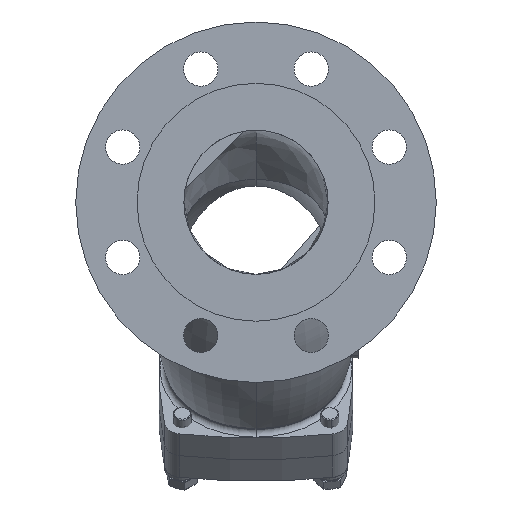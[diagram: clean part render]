
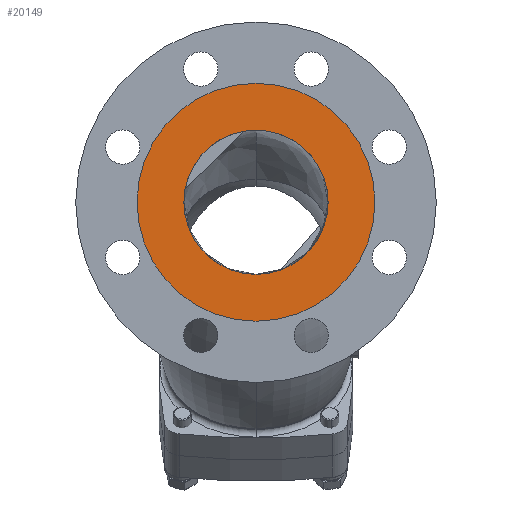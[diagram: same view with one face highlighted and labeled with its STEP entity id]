
A CAD part, left-side view. The second image highlights one B-rep face of the part: STEP entity #20149.
In plain terms, the highlighted planar face has unit normal (-1, 0, 0).
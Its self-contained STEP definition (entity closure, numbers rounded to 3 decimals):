
#19220 = CYLINDRICAL_SURFACE('',#19221,40.);
#19221 = AXIS2_PLACEMENT_3D('',#19222,#19223,#19224);
#19222 = CARTESIAN_POINT('',(377.677,100.406,
    -49.613));
#19223 = DIRECTION('',(-1.,0.,0.));
#19224 = DIRECTION('',(0.,-1.,0.));
#19268 = CYLINDRICAL_SURFACE('',#19269,40.);
#19269 = AXIS2_PLACEMENT_3D('',#19270,#19271,#19272);
#19270 = CARTESIAN_POINT('',(377.677,100.406,
    -49.613));
#19271 = DIRECTION('',(-1.,0.,0.));
#19272 = DIRECTION('',(0.,-1.,0.));
#19387 = VERTEX_POINT('',#19388);
#19388 = CARTESIAN_POINT('',(246.54,60.406,
    -49.613));
#19409 = EDGE_CURVE('',#19410,#19387,#19412,.T.);
#19410 = VERTEX_POINT('',#19411);
#19411 = CARTESIAN_POINT('',(246.54,140.406,
    -49.613));
#19412 = SURFACE_CURVE('',#19413,(#19418,#19425),.PCURVE_S1.);
#19413 = CIRCLE('',#19414,40.);
#19414 = AXIS2_PLACEMENT_3D('',#19415,#19416,#19417);
#19415 = CARTESIAN_POINT('',(246.54,100.406,
    -49.613));
#19416 = DIRECTION('',(-1.,0.,0.));
#19417 = DIRECTION('',(0.,-1.,0.));
#19418 = PCURVE('',#19268,#19419);
#19419 = DEFINITIONAL_REPRESENTATION('',(#19420),#19424);
#19420 = LINE('',#19421,#19422);
#19421 = CARTESIAN_POINT('',(0.,131.137));
#19422 = VECTOR('',#19423,1.);
#19423 = DIRECTION('',(1.,0.));
#19424 = ( GEOMETRIC_REPRESENTATION_CONTEXT(2) 
PARAMETRIC_REPRESENTATION_CONTEXT() REPRESENTATION_CONTEXT('2D SPACE',''
  ) );
#19425 = PCURVE('',#19426,#19431);
#19426 = PLANE('',#19427);
#19427 = AXIS2_PLACEMENT_3D('',#19428,#19429,#19430);
#19428 = CARTESIAN_POINT('',(246.54,100.406,
    -49.613));
#19429 = DIRECTION('',(1.,0.,0.));
#19430 = DIRECTION('',(0.,1.,0.));
#19431 = DEFINITIONAL_REPRESENTATION('',(#19432),#19440);
#19432 = ( BOUNDED_CURVE() B_SPLINE_CURVE(2,(#19433,#19434,#19435,#19436
    ,#19437,#19438,#19439),.UNSPECIFIED.,.T.,.F.) 
B_SPLINE_CURVE_WITH_KNOTS((1,2,2,2,2,1),(-2.094,0.,
    2.094,4.189,6.283,8.378),
.UNSPECIFIED.) CURVE() GEOMETRIC_REPRESENTATION_ITEM() 
RATIONAL_B_SPLINE_CURVE((1.,0.5,1.,0.5,1.,0.5,1.)) REPRESENTATION_ITEM(
  '') );
#19433 = CARTESIAN_POINT('',(-40.,0.));
#19434 = CARTESIAN_POINT('',(-40.,69.282));
#19435 = CARTESIAN_POINT('',(20.,34.641));
#19436 = CARTESIAN_POINT('',(80.,0.));
#19437 = CARTESIAN_POINT('',(20.,-34.641));
#19438 = CARTESIAN_POINT('',(-40.,-69.282));
#19439 = CARTESIAN_POINT('',(-40.,0.));
#19440 = ( GEOMETRIC_REPRESENTATION_CONTEXT(2) 
PARAMETRIC_REPRESENTATION_CONTEXT() REPRESENTATION_CONTEXT('2D SPACE',''
  ) );
#20149 = ADVANCED_FACE('',(#20150,#20218),#19426,.F.);
#20150 = FACE_BOUND('',#20151,.T.);
#20151 = EDGE_LOOP('',(#20152,#20187));
#20152 = ORIENTED_EDGE('',*,*,#20153,.T.);
#20153 = EDGE_CURVE('',#20154,#20156,#20158,.T.);
#20154 = VERTEX_POINT('',#20155);
#20155 = CARTESIAN_POINT('',(246.54,34.406,
    -49.613));
#20156 = VERTEX_POINT('',#20157);
#20157 = CARTESIAN_POINT('',(246.54,166.406,
    -49.613));
#20158 = SURFACE_CURVE('',#20159,(#20164,#20175),.PCURVE_S1.);
#20159 = CIRCLE('',#20160,66.);
#20160 = AXIS2_PLACEMENT_3D('',#20161,#20162,#20163);
#20161 = CARTESIAN_POINT('',(246.54,100.406,
    -49.613));
#20162 = DIRECTION('',(-1.,0.,0.));
#20163 = DIRECTION('',(0.,-1.,0.));
#20164 = PCURVE('',#19426,#20165);
#20165 = DEFINITIONAL_REPRESENTATION('',(#20166),#20174);
#20166 = ( BOUNDED_CURVE() B_SPLINE_CURVE(2,(#20167,#20168,#20169,#20170
    ,#20171,#20172,#20173),.UNSPECIFIED.,.T.,.F.) 
B_SPLINE_CURVE_WITH_KNOTS((1,2,2,2,2,1),(-2.094,0.,
    2.094,4.189,6.283,8.378),
.UNSPECIFIED.) CURVE() GEOMETRIC_REPRESENTATION_ITEM() 
RATIONAL_B_SPLINE_CURVE((1.,0.5,1.,0.5,1.,0.5,1.)) REPRESENTATION_ITEM(
  '') );
#20167 = CARTESIAN_POINT('',(-66.,0.));
#20168 = CARTESIAN_POINT('',(-66.,114.315));
#20169 = CARTESIAN_POINT('',(33.,57.158));
#20170 = CARTESIAN_POINT('',(132.,0.));
#20171 = CARTESIAN_POINT('',(33.,-57.158));
#20172 = CARTESIAN_POINT('',(-66.,-114.315));
#20173 = CARTESIAN_POINT('',(-66.,0.));
#20174 = ( GEOMETRIC_REPRESENTATION_CONTEXT(2) 
PARAMETRIC_REPRESENTATION_CONTEXT() REPRESENTATION_CONTEXT('2D SPACE',''
  ) );
#20175 = PCURVE('',#20176,#20181);
#20176 = CYLINDRICAL_SURFACE('',#20177,66.);
#20177 = AXIS2_PLACEMENT_3D('',#20178,#20179,#20180);
#20178 = CARTESIAN_POINT('',(241.54,100.406,
    -49.613));
#20179 = DIRECTION('',(-1.,0.,0.));
#20180 = DIRECTION('',(0.,-1.,0.));
#20181 = DEFINITIONAL_REPRESENTATION('',(#20182),#20186);
#20182 = LINE('',#20183,#20184);
#20183 = CARTESIAN_POINT('',(0.,-5.));
#20184 = VECTOR('',#20185,1.);
#20185 = DIRECTION('',(1.,0.));
#20186 = ( GEOMETRIC_REPRESENTATION_CONTEXT(2) 
PARAMETRIC_REPRESENTATION_CONTEXT() REPRESENTATION_CONTEXT('2D SPACE',''
  ) );
#20187 = ORIENTED_EDGE('',*,*,#20188,.T.);
#20188 = EDGE_CURVE('',#20156,#20154,#20189,.T.);
#20189 = SURFACE_CURVE('',#20190,(#20195,#20206),.PCURVE_S1.);
#20190 = CIRCLE('',#20191,66.);
#20191 = AXIS2_PLACEMENT_3D('',#20192,#20193,#20194);
#20192 = CARTESIAN_POINT('',(246.54,100.406,
    -49.613));
#20193 = DIRECTION('',(-1.,0.,0.));
#20194 = DIRECTION('',(0.,-1.,0.));
#20195 = PCURVE('',#19426,#20196);
#20196 = DEFINITIONAL_REPRESENTATION('',(#20197),#20205);
#20197 = ( BOUNDED_CURVE() B_SPLINE_CURVE(2,(#20198,#20199,#20200,#20201
    ,#20202,#20203,#20204),.UNSPECIFIED.,.T.,.F.) 
B_SPLINE_CURVE_WITH_KNOTS((1,2,2,2,2,1),(-2.094,0.,
    2.094,4.189,6.283,8.378),
.UNSPECIFIED.) CURVE() GEOMETRIC_REPRESENTATION_ITEM() 
RATIONAL_B_SPLINE_CURVE((1.,0.5,1.,0.5,1.,0.5,1.)) REPRESENTATION_ITEM(
  '') );
#20198 = CARTESIAN_POINT('',(-66.,0.));
#20199 = CARTESIAN_POINT('',(-66.,114.315));
#20200 = CARTESIAN_POINT('',(33.,57.158));
#20201 = CARTESIAN_POINT('',(132.,0.));
#20202 = CARTESIAN_POINT('',(33.,-57.158));
#20203 = CARTESIAN_POINT('',(-66.,-114.315));
#20204 = CARTESIAN_POINT('',(-66.,0.));
#20205 = ( GEOMETRIC_REPRESENTATION_CONTEXT(2) 
PARAMETRIC_REPRESENTATION_CONTEXT() REPRESENTATION_CONTEXT('2D SPACE',''
  ) );
#20206 = PCURVE('',#20207,#20212);
#20207 = CYLINDRICAL_SURFACE('',#20208,66.);
#20208 = AXIS2_PLACEMENT_3D('',#20209,#20210,#20211);
#20209 = CARTESIAN_POINT('',(241.54,100.406,
    -49.613));
#20210 = DIRECTION('',(-1.,0.,0.));
#20211 = DIRECTION('',(0.,-1.,0.));
#20212 = DEFINITIONAL_REPRESENTATION('',(#20213),#20217);
#20213 = LINE('',#20214,#20215);
#20214 = CARTESIAN_POINT('',(0.,-5.));
#20215 = VECTOR('',#20216,1.);
#20216 = DIRECTION('',(1.,0.));
#20217 = ( GEOMETRIC_REPRESENTATION_CONTEXT(2) 
PARAMETRIC_REPRESENTATION_CONTEXT() REPRESENTATION_CONTEXT('2D SPACE',''
  ) );
#20218 = FACE_BOUND('',#20219,.T.);
#20219 = EDGE_LOOP('',(#20220,#20246));
#20220 = ORIENTED_EDGE('',*,*,#20221,.F.);
#20221 = EDGE_CURVE('',#19387,#19410,#20222,.T.);
#20222 = SURFACE_CURVE('',#20223,(#20228,#20239),.PCURVE_S1.);
#20223 = CIRCLE('',#20224,40.);
#20224 = AXIS2_PLACEMENT_3D('',#20225,#20226,#20227);
#20225 = CARTESIAN_POINT('',(246.54,100.406,
    -49.613));
#20226 = DIRECTION('',(-1.,0.,0.));
#20227 = DIRECTION('',(0.,-1.,0.));
#20228 = PCURVE('',#19426,#20229);
#20229 = DEFINITIONAL_REPRESENTATION('',(#20230),#20238);
#20230 = ( BOUNDED_CURVE() B_SPLINE_CURVE(2,(#20231,#20232,#20233,#20234
    ,#20235,#20236,#20237),.UNSPECIFIED.,.T.,.F.) 
B_SPLINE_CURVE_WITH_KNOTS((1,2,2,2,2,1),(-2.094,0.,
    2.094,4.189,6.283,8.378),
.UNSPECIFIED.) CURVE() GEOMETRIC_REPRESENTATION_ITEM() 
RATIONAL_B_SPLINE_CURVE((1.,0.5,1.,0.5,1.,0.5,1.)) REPRESENTATION_ITEM(
  '') );
#20231 = CARTESIAN_POINT('',(-40.,0.));
#20232 = CARTESIAN_POINT('',(-40.,69.282));
#20233 = CARTESIAN_POINT('',(20.,34.641));
#20234 = CARTESIAN_POINT('',(80.,0.));
#20235 = CARTESIAN_POINT('',(20.,-34.641));
#20236 = CARTESIAN_POINT('',(-40.,-69.282));
#20237 = CARTESIAN_POINT('',(-40.,0.));
#20238 = ( GEOMETRIC_REPRESENTATION_CONTEXT(2) 
PARAMETRIC_REPRESENTATION_CONTEXT() REPRESENTATION_CONTEXT('2D SPACE',''
  ) );
#20239 = PCURVE('',#19220,#20240);
#20240 = DEFINITIONAL_REPRESENTATION('',(#20241),#20245);
#20241 = LINE('',#20242,#20243);
#20242 = CARTESIAN_POINT('',(0.,131.137));
#20243 = VECTOR('',#20244,1.);
#20244 = DIRECTION('',(1.,0.));
#20245 = ( GEOMETRIC_REPRESENTATION_CONTEXT(2) 
PARAMETRIC_REPRESENTATION_CONTEXT() REPRESENTATION_CONTEXT('2D SPACE',''
  ) );
#20246 = ORIENTED_EDGE('',*,*,#19409,.F.);
